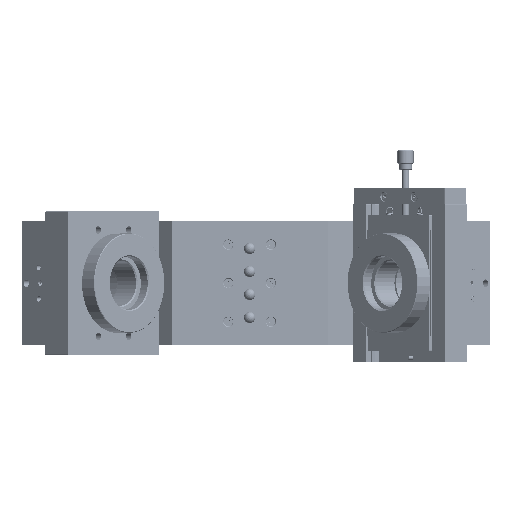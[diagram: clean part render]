
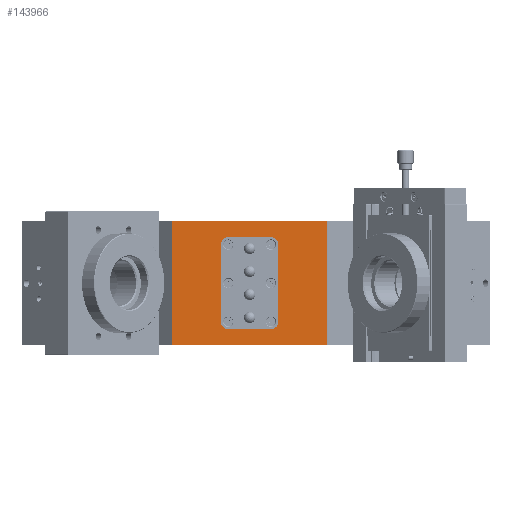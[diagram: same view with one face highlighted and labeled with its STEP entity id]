
A CAD part, front view. The second image highlights one B-rep face of the part: STEP entity #143966.
In plain terms, the highlighted planar face has unit normal (0, -1, 0).
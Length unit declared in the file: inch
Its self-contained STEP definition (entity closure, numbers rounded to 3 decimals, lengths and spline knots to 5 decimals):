
#26 = CARTESIAN_POINT ( 'NONE',  ( 1.35, 3.3596, -1.08268 ) ) ;
#887 = DIRECTION ( 'NONE',  ( 0., -1., 0. ) ) ;
#1964 = CARTESIAN_POINT ( 'NONE',  ( 0.5, 3.3596, 0.67 ) ) ;
#2991 = EDGE_CURVE ( 'NONE', #37579, #173660, #61919, .T. ) ;
#8548 = DIRECTION ( 'NONE',  ( 0., 0., -1. ) ) ;
#9188 = EDGE_CURVE ( 'NONE', #176338, #214189, #117542, .T. ) ;
#9321 = CARTESIAN_POINT ( 'NONE',  ( -0.37, 3.3596, 0.8 ) ) ;
#10948 = DIRECTION ( 'NONE',  ( 1., 0., 0. ) ) ;
#11419 = VECTOR ( 'NONE', #222038, 39.37008 ) ;
#11874 = DIRECTION ( 'NONE',  ( -1., 0., 0. ) ) ;
#12076 = DIRECTION ( 'NONE',  ( 0., 0., 1. ) ) ;
#12460 = DIRECTION ( 'NONE',  ( 0., -1., 0. ) ) ;
#12978 = ORIENTED_EDGE ( 'NONE', *, *, #25178, .T. ) ;
#15621 = DIRECTION ( 'NONE',  ( 0., 0., 1. ) ) ;
#15835 = AXIS2_PLACEMENT_3D ( 'NONE', #68728, #887, #138824 ) ;
#17145 = EDGE_CURVE ( 'NONE', #66853, #217789, #132902, .T. ) ;
#17350 = CARTESIAN_POINT ( 'NONE',  ( 0.37, 3.3596, -0.8 ) ) ;
#18735 = CARTESIAN_POINT ( 'NONE',  ( -0.37, 3.3596, 0.67 ) ) ;
#19739 = DIRECTION ( 'NONE',  ( -1., 0., 0. ) ) ;
#23667 = EDGE_CURVE ( 'NONE', #104196, #37579, #137743, .T. ) ;
#25178 = EDGE_CURVE ( 'NONE', #214189, #66853, #75403, .T. ) ;
#27683 = CARTESIAN_POINT ( 'NONE',  ( -1.35, 3.3596, 1.07268 ) ) ;
#28341 = CARTESIAN_POINT ( 'NONE',  ( 1.35, 3.3596, -1.07268 ) ) ;
#28822 = DIRECTION ( 'NONE',  ( 0., 0., 1. ) ) ;
#29239 = VECTOR ( 'NONE', #12076, 39.37008 ) ;
#29337 = CARTESIAN_POINT ( 'NONE',  ( -0.37, 3.3596, -0.8 ) ) ;
#37579 = VERTEX_POINT ( 'NONE', #106234 ) ;
#39158 = CARTESIAN_POINT ( 'NONE',  ( -0.5, 3.3596, 0.67 ) ) ;
#57645 = VERTEX_POINT ( 'NONE', #29337 ) ;
#61919 = CIRCLE ( 'NONE', #90835, 0.13 ) ;
#63216 = EDGE_CURVE ( 'NONE', #134716, #185229, #210980, .T. ) ;
#64402 = AXIS2_PLACEMENT_3D ( 'NONE', #18735, #191709, #157787 ) ;
#66584 = EDGE_CURVE ( 'NONE', #185229, #57645, #121519, .T. ) ;
#66853 = VERTEX_POINT ( 'NONE', #130078 ) ;
#68728 = CARTESIAN_POINT ( 'NONE',  ( 0.37, 3.3596, -0.67 ) ) ;
#68810 = CARTESIAN_POINT ( 'NONE',  ( 0.5, 3.3596, -0.67 ) ) ;
#75403 = LINE ( 'NONE', #26, #129871 ) ;
#77161 = CIRCLE ( 'NONE', #15835, 0.13 ) ;
#79326 = CARTESIAN_POINT ( 'NONE',  ( -0.5, 3.3596, -0.67 ) ) ;
#83024 = CARTESIAN_POINT ( 'NONE',  ( -0.37, 3.3596, -0.67 ) ) ;
#86913 = FACE_OUTER_BOUND ( 'NONE', #119030, .T. ) ;
#87271 = AXIS2_PLACEMENT_3D ( 'NONE', #214488, #179471, #10948 ) ;
#90835 = AXIS2_PLACEMENT_3D ( 'NONE', #167339, #12460, #116548 ) ;
#92871 = CARTESIAN_POINT ( 'NONE',  ( -0.5, 3.3596, 0.67 ) ) ;
#93835 = VECTOR ( 'NONE', #100598, 39.37008 ) ;
#100598 = DIRECTION ( 'NONE',  ( 1., 0., 0. ) ) ;
#104196 = VERTEX_POINT ( 'NONE', #68810 ) ;
#104434 = ORIENTED_EDGE ( 'NONE', *, *, #108523, .F. ) ;
#105735 = LINE ( 'NONE', #209654, #196169 ) ;
#106234 = CARTESIAN_POINT ( 'NONE',  ( 0.5, 3.3596, 0.67 ) ) ;
#108523 = EDGE_CURVE ( 'NONE', #115207, #104196, #77161, .T. ) ;
#115207 = VERTEX_POINT ( 'NONE', #118823 ) ;
#116548 = DIRECTION ( 'NONE',  ( 0., 0., 1. ) ) ;
#117542 = LINE ( 'NONE', #154824, #93835 ) ;
#118178 = ORIENTED_EDGE ( 'NONE', *, *, #17145, .T. ) ;
#118823 = CARTESIAN_POINT ( 'NONE',  ( 0.37, 3.3596, -0.8 ) ) ;
#118960 = ORIENTED_EDGE ( 'NONE', *, *, #129353, .F. ) ;
#119030 = EDGE_LOOP ( 'NONE', ( #129050, #202256, #12978, #118178 ) ) ;
#121519 = CIRCLE ( 'NONE', #201385, 0.13 ) ;
#122499 = ORIENTED_EDGE ( 'NONE', *, *, #162864, .F. ) ;
#129050 = ORIENTED_EDGE ( 'NONE', *, *, #155488, .F. ) ;
#129353 = EDGE_CURVE ( 'NONE', #173660, #162658, #105735, .T. ) ;
#129871 = VECTOR ( 'NONE', #195262, 39.37008 ) ;
#130078 = CARTESIAN_POINT ( 'NONE',  ( 1.35, 3.3596, 1.07268 ) ) ;
#130441 = ORIENTED_EDGE ( 'NONE', *, *, #23667, .F. ) ;
#132902 = LINE ( 'NONE', #164474, #145161 ) ;
#133117 = LINE ( 'NONE', #166950, #29239 ) ;
#134716 = VERTEX_POINT ( 'NONE', #92871 ) ;
#137743 = LINE ( 'NONE', #1964, #165475 ) ;
#138824 = DIRECTION ( 'NONE',  ( 0., 0., 1. ) ) ;
#143966 = ADVANCED_FACE ( 'NONE', ( #86913, #212256 ), #192015, .T. ) ;
#145161 = VECTOR ( 'NONE', #11874, 39.37008 ) ;
#152676 = EDGE_LOOP ( 'NONE', ( #104434, #184593, #174955, #216928, #122499, #118960, #189351, #130441 ) ) ;
#154824 = CARTESIAN_POINT ( 'NONE',  ( -1.35, 3.3596, -1.07268 ) ) ;
#155488 = EDGE_CURVE ( 'NONE', #176338, #217789, #133117, .T. ) ;
#157787 = DIRECTION ( 'NONE',  ( 0., 0., -1. ) ) ;
#162658 = VERTEX_POINT ( 'NONE', #9321 ) ;
#162864 = EDGE_CURVE ( 'NONE', #162658, #134716, #165382, .T. ) ;
#164474 = CARTESIAN_POINT ( 'NONE',  ( -1.35, 3.3596, 1.07268 ) ) ;
#165382 = CIRCLE ( 'NONE', #64402, 0.13 ) ;
#165475 = VECTOR ( 'NONE', #15621, 39.37008 ) ;
#166633 = EDGE_CURVE ( 'NONE', #57645, #115207, #187010, .T. ) ;
#166950 = CARTESIAN_POINT ( 'NONE',  ( -1.35, 3.3596, -1.08268 ) ) ;
#167339 = CARTESIAN_POINT ( 'NONE',  ( 0.37, 3.3596, 0.67 ) ) ;
#171288 = VECTOR ( 'NONE', #8548, 39.37008 ) ;
#173660 = VERTEX_POINT ( 'NONE', #179321 ) ;
#174955 = ORIENTED_EDGE ( 'NONE', *, *, #66584, .F. ) ;
#176338 = VERTEX_POINT ( 'NONE', #187481 ) ;
#179321 = CARTESIAN_POINT ( 'NONE',  ( 0.37, 3.3596, 0.8 ) ) ;
#179471 = DIRECTION ( 'NONE',  ( 0., -1., 0. ) ) ;
#183673 = DIRECTION ( 'NONE',  ( 0., -1., 0. ) ) ;
#184593 = ORIENTED_EDGE ( 'NONE', *, *, #166633, .F. ) ;
#185229 = VERTEX_POINT ( 'NONE', #79326 ) ;
#187010 = LINE ( 'NONE', #17350, #11419 ) ;
#187481 = CARTESIAN_POINT ( 'NONE',  ( -1.35, 3.3596, -1.07268 ) ) ;
#189351 = ORIENTED_EDGE ( 'NONE', *, *, #2991, .F. ) ;
#191709 = DIRECTION ( 'NONE',  ( 0., -1., 0. ) ) ;
#192015 = PLANE ( 'NONE',  #87271 ) ;
#195262 = DIRECTION ( 'NONE',  ( 0., 0., 1. ) ) ;
#196169 = VECTOR ( 'NONE', #19739, 39.37008 ) ;
#201385 = AXIS2_PLACEMENT_3D ( 'NONE', #83024, #183673, #28822 ) ;
#202256 = ORIENTED_EDGE ( 'NONE', *, *, #9188, .T. ) ;
#209654 = CARTESIAN_POINT ( 'NONE',  ( 0.37, 3.3596, 0.8 ) ) ;
#210980 = LINE ( 'NONE', #39158, #171288 ) ;
#212256 = FACE_BOUND ( 'NONE', #152676, .T. ) ;
#214189 = VERTEX_POINT ( 'NONE', #28341 ) ;
#214488 = CARTESIAN_POINT ( 'NONE',  ( -1.35, 3.3596, -1.08268 ) ) ;
#216928 = ORIENTED_EDGE ( 'NONE', *, *, #63216, .F. ) ;
#217789 = VERTEX_POINT ( 'NONE', #27683 ) ;
#222038 = DIRECTION ( 'NONE',  ( 1., 0., 0. ) ) ;
